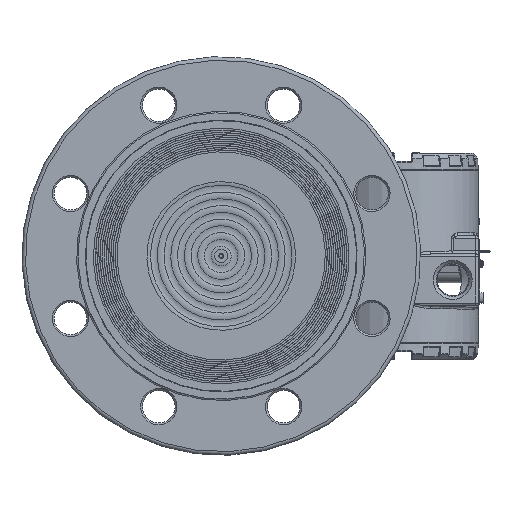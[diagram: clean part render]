
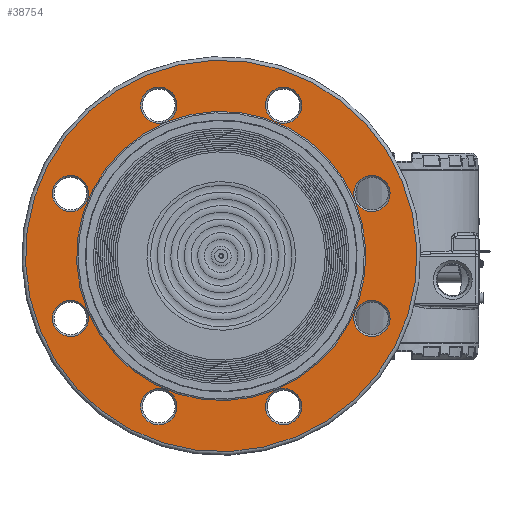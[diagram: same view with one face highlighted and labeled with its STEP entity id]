
A CAD part, top view. The second image highlights one B-rep face of the part: STEP entity #38754.
In plain terms, the highlighted planar face has unit normal (0, 0, 1) as drawn and (-1, 0, 0) by its records, which use the part's own axes.
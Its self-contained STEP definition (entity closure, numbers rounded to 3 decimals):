
#753=FACE_BOUND('',#6589,.T.);
#754=FACE_BOUND('',#6590,.T.);
#755=FACE_BOUND('',#6591,.T.);
#756=FACE_BOUND('',#6592,.T.);
#757=FACE_BOUND('',#6593,.T.);
#758=FACE_BOUND('',#6594,.T.);
#759=FACE_BOUND('',#6595,.T.);
#760=FACE_BOUND('',#6596,.T.);
#761=FACE_BOUND('',#6597,.T.);
#2735=PLANE('',#43057);
#3944=FACE_OUTER_BOUND('',#6588,.T.);
#6588=EDGE_LOOP('',(#29630,#29631));
#6589=EDGE_LOOP('',(#29632));
#6590=EDGE_LOOP('',(#29633));
#6591=EDGE_LOOP('',(#29634));
#6592=EDGE_LOOP('',(#29635));
#6593=EDGE_LOOP('',(#29636,#29637));
#6594=EDGE_LOOP('',(#29638));
#6595=EDGE_LOOP('',(#29639));
#6596=EDGE_LOOP('',(#29640));
#6597=EDGE_LOOP('',(#29641));
#12424=CIRCLE('',#43056,10.);
#12425=CIRCLE('',#43058,108.);
#12426=CIRCLE('',#43059,108.);
#12427=CIRCLE('',#43060,10.);
#12428=CIRCLE('',#43061,10.);
#12429=CIRCLE('',#43062,10.);
#12430=CIRCLE('',#43063,10.);
#12431=CIRCLE('',#43064,79.8);
#12432=CIRCLE('',#43065,79.8);
#12433=CIRCLE('',#43066,10.);
#12434=CIRCLE('',#43067,10.);
#12435=CIRCLE('',#43068,10.);
#16915=VERTEX_POINT('',#69073);
#16916=VERTEX_POINT('',#69077);
#16917=VERTEX_POINT('',#69078);
#16918=VERTEX_POINT('',#69081);
#16919=VERTEX_POINT('',#69083);
#16920=VERTEX_POINT('',#69085);
#16921=VERTEX_POINT('',#69087);
#16922=VERTEX_POINT('',#69089);
#16923=VERTEX_POINT('',#69090);
#16924=VERTEX_POINT('',#69093);
#16925=VERTEX_POINT('',#69095);
#16926=VERTEX_POINT('',#69097);
#21394=EDGE_CURVE('',#16915,#16915,#12424,.T.);
#21396=EDGE_CURVE('',#16916,#16917,#12425,.T.);
#21397=EDGE_CURVE('',#16917,#16916,#12426,.T.);
#21398=EDGE_CURVE('',#16918,#16918,#12427,.T.);
#21399=EDGE_CURVE('',#16919,#16919,#12428,.T.);
#21400=EDGE_CURVE('',#16920,#16920,#12429,.T.);
#21401=EDGE_CURVE('',#16921,#16921,#12430,.T.);
#21402=EDGE_CURVE('',#16922,#16923,#12431,.T.);
#21403=EDGE_CURVE('',#16923,#16922,#12432,.T.);
#21404=EDGE_CURVE('',#16924,#16924,#12433,.T.);
#21405=EDGE_CURVE('',#16925,#16925,#12434,.T.);
#21406=EDGE_CURVE('',#16926,#16926,#12435,.T.);
#29630=ORIENTED_EDGE('',*,*,#21396,.F.);
#29631=ORIENTED_EDGE('',*,*,#21397,.F.);
#29632=ORIENTED_EDGE('',*,*,#21398,.F.);
#29633=ORIENTED_EDGE('',*,*,#21399,.F.);
#29634=ORIENTED_EDGE('',*,*,#21400,.F.);
#29635=ORIENTED_EDGE('',*,*,#21401,.F.);
#29636=ORIENTED_EDGE('',*,*,#21402,.T.);
#29637=ORIENTED_EDGE('',*,*,#21403,.T.);
#29638=ORIENTED_EDGE('',*,*,#21404,.F.);
#29639=ORIENTED_EDGE('',*,*,#21405,.F.);
#29640=ORIENTED_EDGE('',*,*,#21406,.F.);
#29641=ORIENTED_EDGE('',*,*,#21394,.F.);
#38754=ADVANCED_FACE('',(#3944,#753,#754,#755,#756,#757,#758,#759,#760,
#761),#2735,.T.);
#43056=AXIS2_PLACEMENT_3D('',#69074,#50989,#50990);
#43057=AXIS2_PLACEMENT_3D('',#69076,#50992,#50993);
#43058=AXIS2_PLACEMENT_3D('',#69079,#50994,#50995);
#43059=AXIS2_PLACEMENT_3D('',#69080,#50996,#50997);
#43060=AXIS2_PLACEMENT_3D('',#69082,#50998,#50999);
#43061=AXIS2_PLACEMENT_3D('',#69084,#51000,#51001);
#43062=AXIS2_PLACEMENT_3D('',#69086,#51002,#51003);
#43063=AXIS2_PLACEMENT_3D('',#69088,#51004,#51005);
#43064=AXIS2_PLACEMENT_3D('',#69091,#51006,#51007);
#43065=AXIS2_PLACEMENT_3D('',#69092,#51008,#51009);
#43066=AXIS2_PLACEMENT_3D('',#69094,#51010,#51011);
#43067=AXIS2_PLACEMENT_3D('',#69096,#51012,#51013);
#43068=AXIS2_PLACEMENT_3D('',#69098,#51014,#51015);
#50989=DIRECTION('center_axis',(-1.,0.,0.));
#50990=DIRECTION('ref_axis',(0.,-0.707,-0.707));
#50992=DIRECTION('center_axis',(-1.,0.,0.));
#50993=DIRECTION('ref_axis',(0.,0.,1.));
#50994=DIRECTION('center_axis',(1.,0.,0.));
#50995=DIRECTION('ref_axis',(0.,1.,0.));
#50996=DIRECTION('center_axis',(1.,0.,0.));
#50997=DIRECTION('ref_axis',(0.,1.,0.));
#50998=DIRECTION('center_axis',(-1.,0.,0.));
#50999=DIRECTION('ref_axis',(0.,-1.,0.));
#51000=DIRECTION('center_axis',(-1.,0.,0.));
#51001=DIRECTION('ref_axis',(0.,0.,1.));
#51002=DIRECTION('center_axis',(-1.,0.,0.));
#51003=DIRECTION('ref_axis',(0.,1.,0.));
#51004=DIRECTION('center_axis',(-1.,0.,0.));
#51005=DIRECTION('ref_axis',(0.,0.,-1.));
#51006=DIRECTION('center_axis',(1.,0.,0.));
#51007=DIRECTION('ref_axis',(0.,1.,0.));
#51008=DIRECTION('center_axis',(1.,0.,0.));
#51009=DIRECTION('ref_axis',(0.,1.,0.));
#51010=DIRECTION('center_axis',(-1.,0.,0.));
#51011=DIRECTION('ref_axis',(0.,0.707,-0.707));
#51012=DIRECTION('center_axis',(-1.,0.,0.));
#51013=DIRECTION('ref_axis',(0.,0.707,0.707));
#51014=DIRECTION('center_axis',(-1.,0.,0.));
#51015=DIRECTION('ref_axis',(0.,-0.707,0.707));
#69073=CARTESIAN_POINT('',(3.,70.711,70.711));
#69074=CARTESIAN_POINT('Origin',(3.,63.64,63.64));
#69076=CARTESIAN_POINT('Origin',(3.,93.9,0.));
#69077=CARTESIAN_POINT('',(3.,108.,0.));
#69078=CARTESIAN_POINT('',(3.,0.,108.));
#69079=CARTESIAN_POINT('Origin',(3.,0.,0.));
#69080=CARTESIAN_POINT('Origin',(3.,0.,0.));
#69081=CARTESIAN_POINT('',(3.,100.,0.));
#69082=CARTESIAN_POINT('Origin',(3.,90.,0.));
#69083=CARTESIAN_POINT('',(3.,0.,-100.));
#69084=CARTESIAN_POINT('Origin',(3.,0.,-90.));
#69085=CARTESIAN_POINT('',(3.,-100.,0.));
#69086=CARTESIAN_POINT('Origin',(3.,-90.,0.));
#69087=CARTESIAN_POINT('',(3.,0.,100.));
#69088=CARTESIAN_POINT('Origin',(3.,0.,90.));
#69089=CARTESIAN_POINT('',(3.,79.8,0.));
#69090=CARTESIAN_POINT('',(3.,0.,79.8));
#69091=CARTESIAN_POINT('Origin',(3.,0.,0.));
#69092=CARTESIAN_POINT('Origin',(3.,0.,0.));
#69093=CARTESIAN_POINT('',(3.,-70.711,70.711));
#69094=CARTESIAN_POINT('Origin',(3.,-63.64,63.64));
#69095=CARTESIAN_POINT('',(3.,-70.711,-70.711));
#69096=CARTESIAN_POINT('Origin',(3.,-63.64,-63.64));
#69097=CARTESIAN_POINT('',(3.,70.711,-70.711));
#69098=CARTESIAN_POINT('Origin',(3.,63.64,-63.64));
